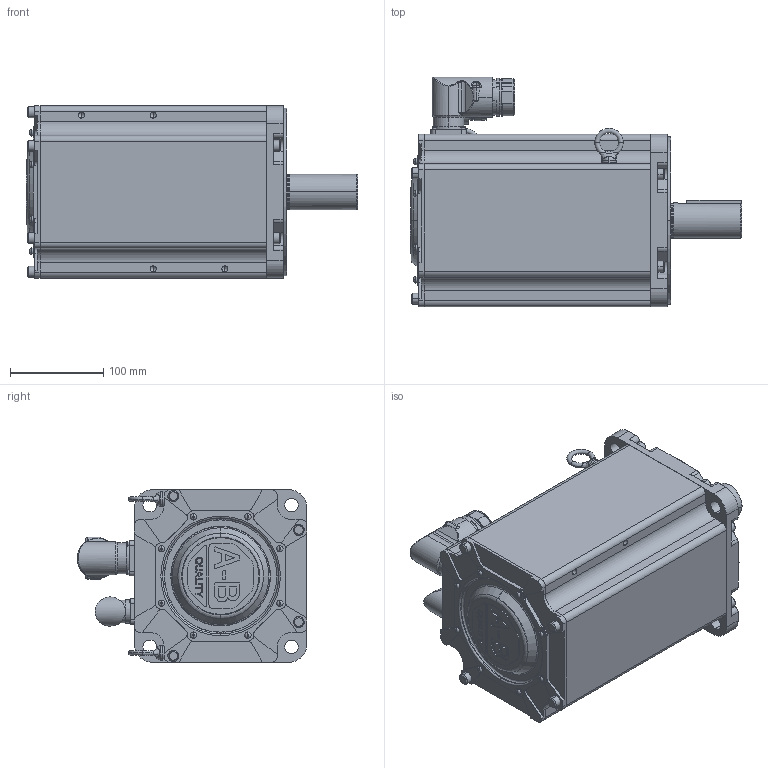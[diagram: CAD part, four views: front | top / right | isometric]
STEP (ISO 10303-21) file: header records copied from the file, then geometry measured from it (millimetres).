
FILE_DESCRIPTION (( 'STEP AP214' ), '1' );
FILE_NAME ('Rockwell Automation-MPM-A2152F-xx72xx.STEP', '2012-05-25T21:54:45', ( 'sysAdmin' ), ( 'SolidWorks' ), 'SwSTEP 2.0', 'SolidWorks 2012', '' );
FILE_SCHEMA (( 'AUTOMOTIVE_DESIGN' ));
Length unit declared in the file: inch
Products named in the file (6): Rockwell Automation-MPM-A2152F-xx72xx_MPM-xxx-Eyebolt; Rockwell Automation-MPM-A2152F-xx72xx_MPM-xxxx-Power Connector-M40; Rockwell Automation-MPM-A2152F-xx72xx_MPM-xxxx-Encoder Connector; Rockwell Automation-MPM-A2152F-xx72xx_MPM-215x-Shaft_2152-shaft-key; Rockwell Automation-MPM-A2152F-xx72xx_MPM-215x-Body_2152; Rockwell Automation-MPM-A2152F-xx72xx
Assembly tree (6 placements, depth 2):
  Rockwell Automation-MPM-A2152F-xx72xx
    Rockwell Automation-MPM-A2152F-xx72xx_MPM-215x-Body_2152
    Rockwell Automation-MPM-A2152F-xx72xx_MPM-215x-Shaft_2152-shaft-key
    Rockwell Automation-MPM-A2152F-xx72xx_MPM-xxxx-Encoder Connector
    Rockwell Automation-MPM-A2152F-xx72xx_MPM-xxxx-Power Connector-M40
    Rockwell Automation-MPM-A2152F-xx72xx_MPM-xxx-Eyebolt  x2
Bounding box: 355.54 x 246.39 x 184.91 mm (x, y, z)
Volume: 4924821.4 mm3; surface area: 694122.8 mm2
Topology: 9 solids, 9 shells, 1058 faces, 2610 edges, 1661 vertices
Faces by surface type: plane 444, cylinder 371, torus 108, cone 84, bspline 51
Entity records: 36418 total; most frequent: CARTESIAN_POINT 9555, DIRECTION 5412, ORIENTED_EDGE 5098, EDGE_CURVE 2549, AXIS2_PLACEMENT_3D 2023, VERTEX_POINT 1635, VECTOR 1366, LINE 1366
